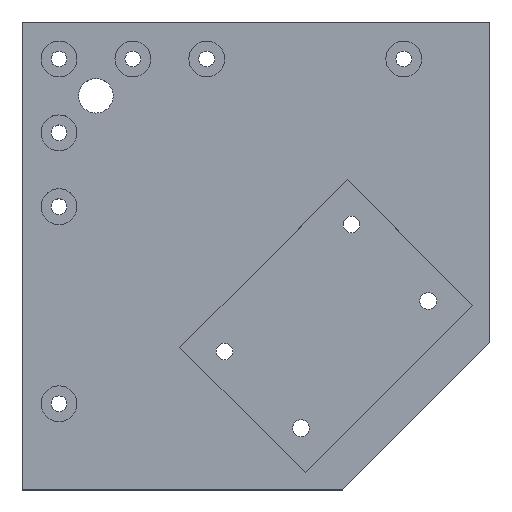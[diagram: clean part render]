
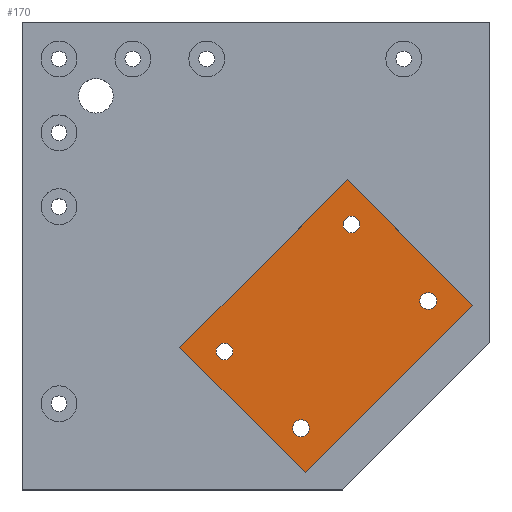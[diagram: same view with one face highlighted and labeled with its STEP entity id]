
A CAD part, top view. The second image highlights one B-rep face of the part: STEP entity #170.
In plain terms, the highlighted planar face has unit normal (0, 0, 1).
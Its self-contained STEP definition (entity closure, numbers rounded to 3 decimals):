
#14 = ORIENTED_EDGE ( 'NONE', *, *, #112, .T. ) ;
#79 = DIRECTION ( 'NONE',  ( 1., 0., 0. ) ) ;
#82 = CARTESIAN_POINT ( 'NONE',  ( 37.112, 30.912, 3.5 ) ) ;
#90 = FACE_OUTER_BOUND ( 'NONE', #1518, .T. ) ;
#96 = LINE ( 'NONE', #376, #1400 ) ;
#112 = EDGE_CURVE ( 'NONE', #1417, #307, #746, .T. ) ;
#118 = CARTESIAN_POINT ( 'NONE',  ( -9.41, -38.809, 3.5 ) ) ;
#137 = EDGE_CURVE ( 'NONE', #179, #214, #1391, .T. ) ;
#154 = CARTESIAN_POINT ( 'NONE',  ( 66.522, -18.303, 3.5 ) ) ;
#156 = CARTESIAN_POINT ( 'NONE',  ( 73.322, -18.303, 3.5 ) ) ;
#170 = ADVANCED_FACE ( 'NONE', ( #1803, #1812, #1091, #394, #90 ), #1403, .T. ) ;
#179 = VERTEX_POINT ( 'NONE', #818 ) ;
#188 = ORIENTED_EDGE ( 'NONE', *, *, #623, .F. ) ;
#195 = LINE ( 'NONE', #762, #1102 ) ;
#214 = VERTEX_POINT ( 'NONE', #1520 ) ;
#218 = ORIENTED_EDGE ( 'NONE', *, *, #1816, .T. ) ;
#244 = VERTEX_POINT ( 'NONE', #118 ) ;
#252 = DIRECTION ( 'NONE',  ( 0., 0., 1. ) ) ;
#253 = EDGE_CURVE ( 'NONE', #1407, #244, #1351, .T. ) ;
#261 = CARTESIAN_POINT ( 'NONE',  ( 14.903, -69.922, 3.5 ) ) ;
#272 = DIRECTION ( 'NONE',  ( 0., 0., 1. ) ) ;
#277 = VERTEX_POINT ( 'NONE', #156 ) ;
#282 = CARTESIAN_POINT ( 'NONE',  ( 69.922, -18.303, 3.5 ) ) ;
#287 = DIRECTION ( 'NONE',  ( 1., 0., 0. ) ) ;
#288 = EDGE_CURVE ( 'NONE', #244, #1407, #1171, .T. ) ;
#306 = DIRECTION ( 'NONE',  ( 0., 0., 1. ) ) ;
#307 = VERTEX_POINT ( 'NONE', #421 ) ;
#308 = EDGE_CURVE ( 'NONE', #277, #759, #1443, .T. ) ;
#309 = VERTEX_POINT ( 'NONE', #702 ) ;
#311 = EDGE_LOOP ( 'NONE', ( #973, #899 ) ) ;
#340 = ORIENTED_EDGE ( 'NONE', *, *, #1402, .F. ) ;
#346 = AXIS2_PLACEMENT_3D ( 'NONE', #1691, #793, #1261 ) ;
#376 = CARTESIAN_POINT ( 'NONE',  ( 88.024, -20., 3.5 ) ) ;
#394 = FACE_BOUND ( 'NONE', #567, .T. ) ;
#395 = AXIS2_PLACEMENT_3D ( 'NONE', #545, #1663, #1548 ) ;
#421 = CARTESIAN_POINT ( 'NONE',  ( -30.912, -37.112, 3.5 ) ) ;
#448 = CARTESIAN_POINT ( 'NONE',  ( -12.81, -38.809, 3.5 ) ) ;
#449 = EDGE_LOOP ( 'NONE', ( #340, #1756 ) ) ;
#474 = LINE ( 'NONE', #1043, #540 ) ;
#481 = CIRCLE ( 'NONE', #720, 3.4 ) ;
#540 = VECTOR ( 'NONE', #1334, 1000. ) ;
#545 = CARTESIAN_POINT ( 'NONE',  ( -12.81, -38.809, 3.5 ) ) ;
#546 = AXIS2_PLACEMENT_3D ( 'NONE', #448, #1013, #1308 ) ;
#567 = EDGE_LOOP ( 'NONE', ( #1039, #188 ) ) ;
#577 = CARTESIAN_POINT ( 'NONE',  ( 18.303, -69.922, 3.5 ) ) ;
#606 = DIRECTION ( 'NONE',  ( 1., 0., 0. ) ) ;
#622 = DIRECTION ( 'NONE',  ( 0., 0., 1. ) ) ;
#623 = EDGE_CURVE ( 'NONE', #214, #179, #481, .T. ) ;
#629 = EDGE_LOOP ( 'NONE', ( #1583, #740 ) ) ;
#702 = CARTESIAN_POINT ( 'NONE',  ( 21.703, -69.922, 3.5 ) ) ;
#720 = AXIS2_PLACEMENT_3D ( 'NONE', #1421, #272, #287 ) ;
#740 = ORIENTED_EDGE ( 'NONE', *, *, #288, .F. ) ;
#746 = LINE ( 'NONE', #1735, #1152 ) ;
#759 = VERTEX_POINT ( 'NONE', #154 ) ;
#762 = CARTESIAN_POINT ( 'NONE',  ( 20., -88.024, 3.5 ) ) ;
#766 = AXIS2_PLACEMENT_3D ( 'NONE', #577, #1144, #1292 ) ;
#793 = DIRECTION ( 'NONE',  ( 0., 0., 1. ) ) ;
#818 = CARTESIAN_POINT ( 'NONE',  ( 35.409, 12.81, 3.5 ) ) ;
#854 = CIRCLE ( 'NONE', #1333, 3.4 ) ;
#899 = ORIENTED_EDGE ( 'NONE', *, *, #308, .F. ) ;
#919 = EDGE_CURVE ( 'NONE', #937, #1417, #96, .T. ) ;
#929 = DIRECTION ( 'NONE',  ( -0.707, 0.707, 0. ) ) ;
#933 = AXIS2_PLACEMENT_3D ( 'NONE', #1804, #1236, #936 ) ;
#936 = DIRECTION ( 'NONE',  ( 1., 0., 0. ) ) ;
#937 = VERTEX_POINT ( 'NONE', #1674 ) ;
#973 = ORIENTED_EDGE ( 'NONE', *, *, #1246, .F. ) ;
#988 = DIRECTION ( 'NONE',  ( 1., 0., 0. ) ) ;
#1013 = DIRECTION ( 'NONE',  ( 0., 0., 1. ) ) ;
#1037 = VERTEX_POINT ( 'NONE', #1210 ) ;
#1039 = ORIENTED_EDGE ( 'NONE', *, *, #137, .F. ) ;
#1043 = CARTESIAN_POINT ( 'NONE',  ( -30.912, -37.112, 3.5 ) ) ;
#1056 = VERTEX_POINT ( 'NONE', #261 ) ;
#1091 = FACE_BOUND ( 'NONE', #311, .T. ) ;
#1102 = VECTOR ( 'NONE', #1800, 1000. ) ;
#1144 = DIRECTION ( 'NONE',  ( 0., 0., 1. ) ) ;
#1152 = VECTOR ( 'NONE', #1310, 1000. ) ;
#1171 = CIRCLE ( 'NONE', #546, 3.4 ) ;
#1206 = EDGE_CURVE ( 'NONE', #309, #1056, #1428, .T. ) ;
#1210 = CARTESIAN_POINT ( 'NONE',  ( 20., -88.024, 3.5 ) ) ;
#1236 = DIRECTION ( 'NONE',  ( 0., 0., 1. ) ) ;
#1246 = EDGE_CURVE ( 'NONE', #759, #277, #854, .T. ) ;
#1261 = DIRECTION ( 'NONE',  ( 1., 0., 0. ) ) ;
#1292 = DIRECTION ( 'NONE',  ( 1., 0., 0. ) ) ;
#1300 = AXIS2_PLACEMENT_3D ( 'NONE', #1671, #252, #79 ) ;
#1308 = DIRECTION ( 'NONE',  ( 1., 0., 0. ) ) ;
#1310 = DIRECTION ( 'NONE',  ( -0.707, -0.707, 0. ) ) ;
#1333 = AXIS2_PLACEMENT_3D ( 'NONE', #1769, #622, #606 ) ;
#1334 = DIRECTION ( 'NONE',  ( 0.707, -0.707, 0. ) ) ;
#1351 = CIRCLE ( 'NONE', #395, 3.4 ) ;
#1391 = CIRCLE ( 'NONE', #346, 3.4 ) ;
#1400 = VECTOR ( 'NONE', #929, 1000. ) ;
#1402 = EDGE_CURVE ( 'NONE', #1056, #309, #1836, .T. ) ;
#1403 = PLANE ( 'NONE',  #1300 ) ;
#1407 = VERTEX_POINT ( 'NONE', #1787 ) ;
#1417 = VERTEX_POINT ( 'NONE', #82 ) ;
#1421 = CARTESIAN_POINT ( 'NONE',  ( 38.809, 12.81, 3.5 ) ) ;
#1428 = CIRCLE ( 'NONE', #766, 3.4 ) ;
#1443 = CIRCLE ( 'NONE', #1686, 3.4 ) ;
#1518 = EDGE_LOOP ( 'NONE', ( #1814, #14, #1662, #218 ) ) ;
#1520 = CARTESIAN_POINT ( 'NONE',  ( 42.209, 12.81, 3.5 ) ) ;
#1548 = DIRECTION ( 'NONE',  ( 1., 0., 0. ) ) ;
#1583 = ORIENTED_EDGE ( 'NONE', *, *, #253, .F. ) ;
#1662 = ORIENTED_EDGE ( 'NONE', *, *, #1841, .T. ) ;
#1663 = DIRECTION ( 'NONE',  ( 0., 0., 1. ) ) ;
#1671 = CARTESIAN_POINT ( 'NONE',  ( 0., 0., 3.5 ) ) ;
#1674 = CARTESIAN_POINT ( 'NONE',  ( 88.024, -20., 3.5 ) ) ;
#1686 = AXIS2_PLACEMENT_3D ( 'NONE', #282, #306, #988 ) ;
#1691 = CARTESIAN_POINT ( 'NONE',  ( 38.809, 12.81, 3.5 ) ) ;
#1735 = CARTESIAN_POINT ( 'NONE',  ( 37.112, 30.912, 3.5 ) ) ;
#1756 = ORIENTED_EDGE ( 'NONE', *, *, #1206, .F. ) ;
#1769 = CARTESIAN_POINT ( 'NONE',  ( 69.922, -18.303, 3.5 ) ) ;
#1787 = CARTESIAN_POINT ( 'NONE',  ( -16.21, -38.809, 3.5 ) ) ;
#1800 = DIRECTION ( 'NONE',  ( 0.707, 0.707, 0. ) ) ;
#1803 = FACE_BOUND ( 'NONE', #449, .T. ) ;
#1804 = CARTESIAN_POINT ( 'NONE',  ( 18.303, -69.922, 3.5 ) ) ;
#1812 = FACE_BOUND ( 'NONE', #629, .T. ) ;
#1814 = ORIENTED_EDGE ( 'NONE', *, *, #919, .T. ) ;
#1816 = EDGE_CURVE ( 'NONE', #1037, #937, #195, .T. ) ;
#1836 = CIRCLE ( 'NONE', #933, 3.4 ) ;
#1841 = EDGE_CURVE ( 'NONE', #307, #1037, #474, .T. ) ;
